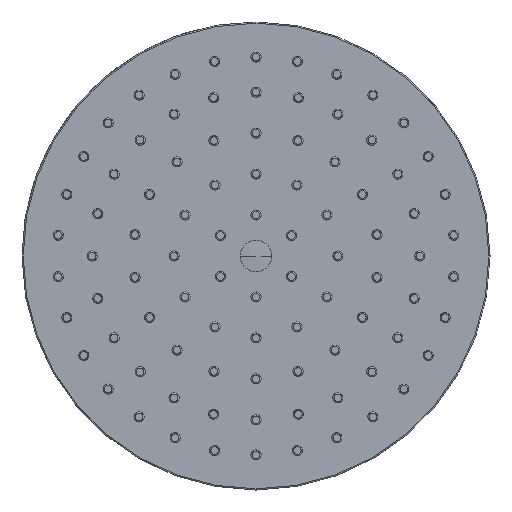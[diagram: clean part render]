
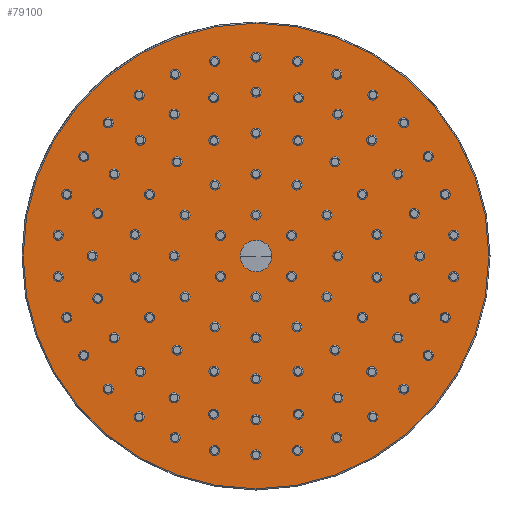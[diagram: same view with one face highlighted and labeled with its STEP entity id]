
A CAD part, front view. The second image highlights one B-rep face of the part: STEP entity #79100.
In plain terms, the highlighted planar face has unit normal (0, -1, 0).
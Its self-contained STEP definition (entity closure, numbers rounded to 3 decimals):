
#78733=CARTESIAN_POINT('',(0.,0.,0.));
#78734=DIRECTION('',(0.,1.,0.));
#78735=DIRECTION('',(0.,0.,1.));
#78736=AXIS2_PLACEMENT_3D('',#78733,#78734,#78735);
#78738=CARTESIAN_POINT('',(0.,0.,0.));
#78739=DIRECTION('',(0.,1.,0.));
#78740=DIRECTION('',(0.,0.,-1.));
#78741=AXIS2_PLACEMENT_3D('',#78738,#78739,#78740);
#78799=CARTESIAN_POINT('',(0.,0.,99.5));
#78800=VERTEX_POINT('',#78799);
#78801=CARTESIAN_POINT('',(0.,0.,
-99.5));
#78802=VERTEX_POINT('',#78801);
#79091=CARTESIAN_POINT('',(0.,0.,0.));
#79092=DIRECTION('',(0.,1.,0.));
#79093=DIRECTION('',(1.,0.,0.));
#79094=AXIS2_PLACEMENT_3D('',#79091,#79092,#79093);
#79095=PLANE('',#79094);
#79096=ORIENTED_EDGE('',*,*,#78999,.T.);
#79097=ORIENTED_EDGE('',*,*,#79018,.T.);
#79098=EDGE_LOOP('',(#79096,#79097));
#79099=FACE_OUTER_BOUND('',#79098,.F.);
#79100=ADVANCED_FACE('',(#79099),#79095,.F.);
#78737=CIRCLE('',#78736,99.5);
#78742=CIRCLE('',#78741,99.5);
#78999=EDGE_CURVE('',#78800,#78802,#78737,.T.);
#79018=EDGE_CURVE('',#78802,#78800,#78742,.T.);
